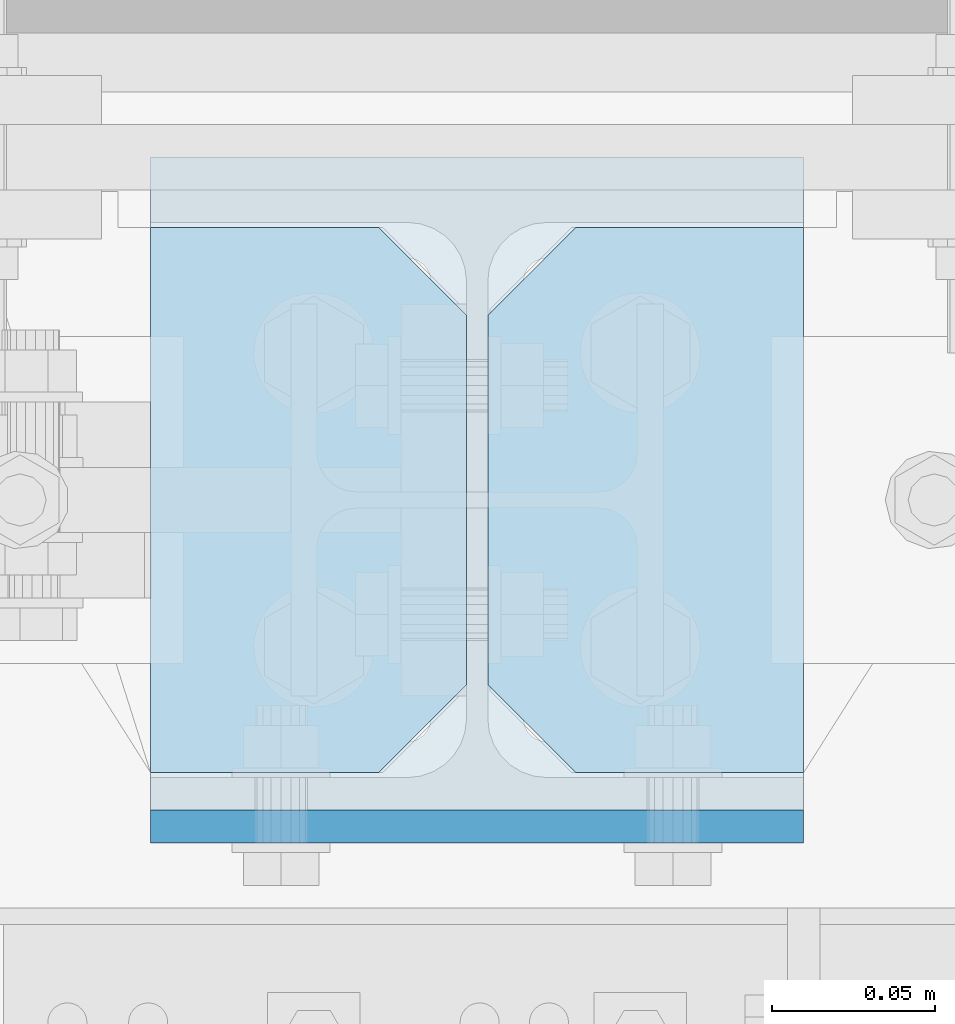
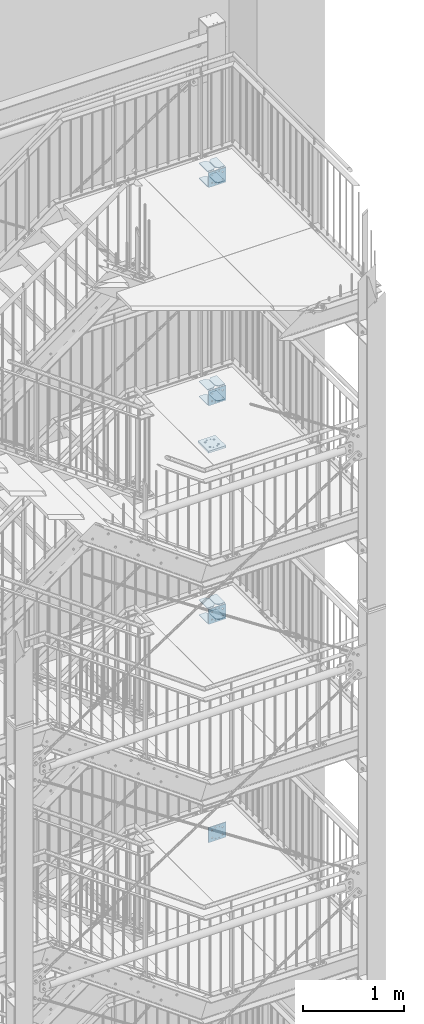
# One storey, part 218 of 831: 17 plates, 64 openings.
"""IFC2X3 building model written with IfcOpenShell, lengths in millimetres."""

from ifc_helpers import new_model, entity, si_unit, converted_unit, frame, frame_2d, origin, origin_with_axes, origin_2d_with_axis, place, context, project, spatial, polyline, circle, outline, extrude, material, layer, layer_set, element, save


model = new_model("IFC2X3")

# Units and contexts
model_context = context("Model", 3, precision=1e-09, world=origin_with_axes())
ifc_project = project(units=[si_unit("LENGTHUNIT", "METRE", prefix="MILLI"), si_unit("AREAUNIT", "SQUARE_METRE"), si_unit("VOLUMEUNIT", "CUBIC_METRE"), converted_unit("PLANEANGLEUNIT", "DEGREE", entity("IfcPlaneAngleMeasure", 0.01745329), si_unit("PLANEANGLEUNIT", "RADIAN"), dimensions=[0, 0, 0, 0, 0, 0, 0])], contexts=[model_context])

# Site, building, storey
site_placement = place(None, origin_with_axes())
site = spatial("IfcSite", under=ifc_project, at=site_placement, Name="Site", CompositionType="ELEMENT")
building_placement = place(site_placement, origin_with_axes())
building = spatial("IfcBuilding", under=site, at=building_placement, Name="Struktur 1", CompositionType="ELEMENT")
storey_placement = place(building_placement, origin_with_axes())
storey = spatial("IfcBuildingStorey", under=building, at=storey_placement, Name="Default Storey", CompositionType="ELEMENT", Elevation=0.0)

# Plate, openings
ifc_material = material(Name="S235JR")
ifc_layer_1 = layer(ifc_material, 25.0)
ifc_layer_set_1 = layer_set([ifc_layer_1], Name="S235JR")
plate_1_placement = place(None, frame((8866.713402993, 7516.736971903, 12925.0), z_axis=(0.0, 0.0, -1.0), x_axis=(0.0, -1.0, 0.0)))
plate_1 = element("IfcPlate", 1, at=plate_1_placement, inside=storey, material=ifc_layer_set_1, Name="Endplate#2", ObjectType="Endplate#2", context=model_context, shape_type="SweptSolid", body=[
    extrude(outline(polyline([(-105.0, -100.0), (105.0, -100.0), (105.0, 100.0), (-105.0, 100.0), (-105.0, -100.0)])), origin_with_axes(), (0.0, 0.0, 1.0), 25.0),
])
opening_1_placement = place(plate_1_placement, frame((67.0, 21.25, 25.5), z_axis=(0.0, 0.0, -1.0), x_axis=(-1.0, 0.0, 0.0)))
element("IfcOpeningElement", 2, at=opening_1_placement, cuts=plate_1, ObjectType="Opening", context=model_context, shape_type="SweptSolid", body=[
    extrude(circle(Radius=7.001, at=origin_2d_with_axis()), origin(), (0.0, 0.0, 1.0), 26.0),
])
opening_2_placement = place(plate_1_placement, frame((-67.0, 21.25, 25.5), z_axis=(0.0, 0.0, -1.0), x_axis=(-1.0, 0.0, 0.0)))
element("IfcOpeningElement", 3, at=opening_2_placement, cuts=plate_1, ObjectType="Opening", context=model_context, shape_type="SweptSolid", body=[
    extrude(circle(Radius=7.001, at=origin_2d_with_axis()), origin(), (0.0, 0.0, 1.0), 26.0),
])
opening_3_placement = place(plate_1_placement, frame((-67.0, -21.25, 25.5), z_axis=(0.0, 0.0, -1.0), x_axis=(-1.0, 0.0, 0.0)))
element("IfcOpeningElement", 4, at=opening_3_placement, cuts=plate_1, ObjectType="Opening", context=model_context, shape_type="SweptSolid", body=[
    extrude(circle(Radius=7.001, at=origin_2d_with_axis()), origin(), (0.0, 0.0, 1.0), 26.0),
])
opening_4_placement = place(plate_1_placement, frame((67.0, -21.25, 25.5), z_axis=(0.0, 0.0, -1.0), x_axis=(-1.0, 0.0, 0.0)))
element("IfcOpeningElement", 5, at=opening_4_placement, cuts=plate_1, ObjectType="Opening", context=model_context, shape_type="SweptSolid", body=[
    extrude(circle(Radius=7.001, at=origin_2d_with_axis()), origin(), (0.0, 0.0, 1.0), 26.0),
])
opening_5_placement = place(plate_1_placement, frame((45.0, 61.001, 25.5), z_axis=(0.0, 0.0, 1.0), x_axis=(1.0, 0.0, 0.0)))
element("IfcOpeningElement", 6, at=opening_5_placement, cuts=plate_1, ObjectType="Opening", context=model_context, shape_type="SweptSolid", body=[
    extrude(circle(Radius=11.001, at=frame_2d((0.0, -11.001), x_axis=(1.0, 0.0))), origin(), (0.0, 0.0, -1.0), 26.0),
])
opening_6_placement = place(plate_1_placement, frame((-45.0, 61.001, 25.5), z_axis=(0.0, 0.0, 1.0), x_axis=(1.0, 0.0, 0.0)))
element("IfcOpeningElement", 7, at=opening_6_placement, cuts=plate_1, ObjectType="Opening", context=model_context, shape_type="SweptSolid", body=[
    extrude(circle(Radius=11.001, at=frame_2d((0.0, -11.001), x_axis=(1.0, 0.0))), origin(), (0.0, 0.0, -1.0), 26.0),
])
opening_7_placement = place(plate_1_placement, frame((45.0, -38.999, 25.5), z_axis=(0.0, 0.0, 1.0), x_axis=(1.0, 0.0, 0.0)))
element("IfcOpeningElement", 8, at=opening_7_placement, cuts=plate_1, ObjectType="Opening", context=model_context, shape_type="SweptSolid", body=[
    extrude(circle(Radius=11.001, at=frame_2d((0.0, -11.001), x_axis=(1.0, 0.0))), origin(), (0.0, 0.0, -1.0), 26.0),
])
opening_8_placement = place(plate_1_placement, frame((-45.0, -38.999, 25.5), z_axis=(0.0, 0.0, 1.0), x_axis=(1.0, 0.0, 0.0)))
element("IfcOpeningElement", 9, at=opening_8_placement, cuts=plate_1, ObjectType="Opening", context=model_context, shape_type="SweptSolid", body=[
    extrude(circle(Radius=11.001, at=frame_2d((0.0, -11.001), x_axis=(1.0, 0.0))), origin(), (0.0, 0.0, -1.0), 26.0),
])

ifc_layer_2 = layer(ifc_material, 10.0)
ifc_layer_set_2 = layer_set([ifc_layer_2], Name="S235JR")
plate_2_placement = place(None, frame((8866.713402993, 7411.736971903, 16189.0000003), z_axis=(0.0, 1.0, 0.0), x_axis=(0.0, 0.0, -1.0)))
plate_2 = element("IfcPlate", 10, at=plate_2_placement, inside=storey, material=ifc_layer_set_2, Name="Endplate", ObjectType="Endplate", context=model_context, shape_type="SweptSolid", body=[
    extrude(outline(polyline([(-90.0, -100.0), (90.0, -100.0), (90.0, 100.0), (-90.0, 100.0), (-90.0, -100.0)])), origin_with_axes(), (0.0, 0.0, 1.0), 10.0),
])
opening_9_placement = place(plate_2_placement, frame((-67.0, 21.25, 10.5), z_axis=(0.0, 0.0, -1.0), x_axis=(-1.0, 0.0, 0.0)))
element("IfcOpeningElement", 11, at=opening_9_placement, cuts=plate_2, ObjectType="Opening", context=model_context, shape_type="SweptSolid", body=[
    extrude(circle(Radius=6.001, at=origin_2d_with_axis()), origin(), (0.0, 0.0, 1.0), 11.0),
])
opening_10_placement = place(plate_2_placement, frame((67.0, 21.25, 10.5), z_axis=(0.0, 0.0, -1.0), x_axis=(-1.0, 0.0, 0.0)))
element("IfcOpeningElement", 12, at=opening_10_placement, cuts=plate_2, ObjectType="Opening", context=model_context, shape_type="SweptSolid", body=[
    extrude(circle(Radius=6.001, at=origin_2d_with_axis()), origin(), (0.0, 0.0, 1.0), 11.0),
])
opening_11_placement = place(plate_2_placement, frame((67.0, -21.25, 10.5), z_axis=(0.0, 0.0, -1.0), x_axis=(-1.0, 0.0, 0.0)))
element("IfcOpeningElement", 13, at=opening_11_placement, cuts=plate_2, ObjectType="Opening", context=model_context, shape_type="SweptSolid", body=[
    extrude(circle(Radius=6.001, at=origin_2d_with_axis()), origin(), (0.0, 0.0, 1.0), 11.0),
])
opening_12_placement = place(plate_2_placement, frame((-67.0, -21.25, 10.5), z_axis=(0.0, 0.0, -1.0), x_axis=(-1.0, 0.0, 0.0)))
element("IfcOpeningElement", 14, at=opening_12_placement, cuts=plate_2, ObjectType="Opening", context=model_context, shape_type="SweptSolid", body=[
    extrude(circle(Radius=6.001, at=origin_2d_with_axis()), origin(), (0.0, 0.0, 1.0), 11.0),
])
opening_13_placement = place(plate_2_placement, frame((45.0, 60.0, 10.5), z_axis=(0.0, 0.0, -1.0), x_axis=(0.0, 1.0, 0.0)))
element("IfcOpeningElement", 15, at=opening_13_placement, cuts=plate_2, ObjectType="Opening", context=model_context, shape_type="SweptSolid", body=[
    extrude(circle(Radius=9.001, at=origin_2d_with_axis()), origin(), (0.0, 0.0, 1.0), 11.0),
])
opening_14_placement = place(plate_2_placement, frame((-45.0, -60.0, 10.5), z_axis=(0.0, 0.0, -1.0), x_axis=(0.0, -1.0, 0.0)))
element("IfcOpeningElement", 16, at=opening_14_placement, cuts=plate_2, ObjectType="Opening", context=model_context, shape_type="SweptSolid", body=[
    extrude(circle(Radius=9.001, at=origin_2d_with_axis()), origin(), (0.0, 0.0, 1.0), 11.0),
])
opening_15_placement = place(plate_2_placement, frame((-45.0, 60.0, 10.5), z_axis=(0.0, 0.0, -1.0), x_axis=(0.0, 1.0, 0.0)))
element("IfcOpeningElement", 17, at=opening_15_placement, cuts=plate_2, ObjectType="Opening", context=model_context, shape_type="SweptSolid", body=[
    extrude(circle(Radius=9.001, at=origin_2d_with_axis()), origin(), (0.0, 0.0, 1.0), 11.0),
])
opening_16_placement = place(plate_2_placement, frame((45.0, -60.0, 10.5), z_axis=(0.0, 0.0, -1.0), x_axis=(0.0, -1.0, 0.0)))
element("IfcOpeningElement", 18, at=opening_16_placement, cuts=plate_2, ObjectType="Opening", context=model_context, shape_type="SweptSolid", body=[
    extrude(circle(Radius=9.001, at=origin_2d_with_axis()), origin(), (0.0, 0.0, 1.0), 11.0),
])

plate_3_placement = place(None, frame((8766.713402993, 7433.236971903, 16274.0000003), z_axis=(0.0, 0.0, 1.0), x_axis=(1.0, 0.0, 0.0)))
plate_3 = element("IfcPlate", 19, at=plate_3_placement, inside=storey, material=ifc_layer_set_2, Name="Stiffener#1", ObjectType="Stiffener#1", context=model_context, shape_type="SweptSolid", body=[
    extrude(outline(polyline([(0.0, 0.0), (96.75, 0.0), (96.75, 167.0), (0.0, 167.0), (0.0, 0.0)])), origin_with_axes(), (0.0, 0.0, 1.0), 10.0),
])
opening_17_placement = place(plate_3_placement, frame((0.0, 0.0, -0.01), z_axis=(0.0, 0.0, 1.0), x_axis=(1.0, 0.0, 0.0)))
element("IfcOpeningElement", 20, at=opening_17_placement, cuts=plate_3, ObjectType="Opening", context=model_context, shape_type="SweptSolid", body=[
    extrude(outline(polyline([(96.75, 167.0), (69.75, 167.0), (96.75, 140.0), (96.75, 167.0)])), origin(), (0.0, 0.0, 1.0), 10.02),
])
opening_18_placement = place(plate_3_placement, frame((0.0, 0.0, -0.01), z_axis=(0.0, 0.0, 1.0), x_axis=(1.0, 0.0, 0.0)))
element("IfcOpeningElement", 21, at=opening_18_placement, cuts=plate_3, ObjectType="Opening", context=model_context, shape_type="SweptSolid", body=[
    extrude(outline(polyline([(96.75, 0.0), (96.75, 27.0), (69.75, 0.0), (96.75, 0.0)])), origin(), (0.0, 0.0, 1.0), 10.02),
])

plate_4_placement = place(None, frame((8869.963402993, 7433.236971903, 16274.0000003), z_axis=(0.0, 0.0, 1.0), x_axis=(1.0, 0.0, 0.0)))
plate_4 = element("IfcPlate", 22, at=plate_4_placement, inside=storey, material=ifc_layer_set_2, Name="Stiffener#2", ObjectType="Stiffener#2", context=model_context, shape_type="SweptSolid", body=[
    extrude(outline(polyline([(0.0, 0.0), (96.75, 0.0), (96.75, 167.0), (0.0, 167.0), (0.0, 0.0)])), origin_with_axes(), (0.0, 0.0, 1.0), 10.0),
])
opening_19_placement = place(plate_4_placement, frame((0.0, 0.0, -0.01), z_axis=(0.0, 0.0, 1.0), x_axis=(1.0, 0.0, 0.0)))
element("IfcOpeningElement", 23, at=opening_19_placement, cuts=plate_4, ObjectType="Opening", context=model_context, shape_type="SweptSolid", body=[
    extrude(outline(polyline([(0.0, 167.0), (0.0, 140.0), (27.0, 167.0), (0.0, 167.0)])), origin(), (0.0, 0.0, 1.0), 10.02),
])
opening_20_placement = place(plate_4_placement, frame((0.0, 0.0, -0.01), z_axis=(0.0, 0.0, 1.0), x_axis=(1.0, 0.0, 0.0)))
element("IfcOpeningElement", 24, at=opening_20_placement, cuts=plate_4, ObjectType="Opening", context=model_context, shape_type="SweptSolid", body=[
    extrude(outline(polyline([(0.0, 0.0), (27.0, 0.0), (0.0, 27.0), (0.0, 0.0)])), origin(), (0.0, 0.0, 1.0), 10.02),
])

plate_5_placement = place(None, frame((8863.463402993, 7433.236971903, 16104.0000003), z_axis=(0.0, 0.0, -1.0), x_axis=(-1.0, 0.0, 0.0)))
plate_5 = element("IfcPlate", 25, at=plate_5_placement, inside=storey, material=ifc_layer_set_2, Name="Stiffener#3", ObjectType="Stiffener#3", context=model_context, shape_type="SweptSolid", body=[
    extrude(outline(polyline([(0.0, 0.0), (96.75, 0.0), (96.75, 167.0), (0.0, 167.0), (0.0, 0.0)])), origin_with_axes(), (0.0, 0.0, 1.0), 10.0),
])
opening_21_placement = place(plate_5_placement, frame((0.0, 0.0, -0.01), z_axis=(0.0, 0.0, 1.0), x_axis=(1.0, 0.0, 0.0)))
element("IfcOpeningElement", 26, at=opening_21_placement, cuts=plate_5, ObjectType="Opening", context=model_context, shape_type="SweptSolid", body=[
    extrude(outline(polyline([(0.0, 167.0), (0.0, 140.0), (27.0, 167.0), (0.0, 167.0)])), origin(), (0.0, 0.0, 1.0), 10.02),
])
opening_22_placement = place(plate_5_placement, frame((0.0, 0.0, -0.01), z_axis=(0.0, 0.0, 1.0), x_axis=(1.0, 0.0, 0.0)))
element("IfcOpeningElement", 27, at=opening_22_placement, cuts=plate_5, ObjectType="Opening", context=model_context, shape_type="SweptSolid", body=[
    extrude(outline(polyline([(0.0, 0.0), (27.0, 0.0), (0.0, 27.0), (0.0, 0.0)])), origin(), (0.0, 0.0, 1.0), 10.02),
])

plate_6_placement = place(None, frame((8966.713402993, 7433.236971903, 16104.0000003), z_axis=(0.0, 0.0, -1.0), x_axis=(-1.0, 0.0, 0.0)))
plate_6 = element("IfcPlate", 28, at=plate_6_placement, inside=storey, material=ifc_layer_set_2, Name="Stiffener#4", ObjectType="Stiffener#4", context=model_context, shape_type="SweptSolid", body=[
    extrude(outline(polyline([(0.0, 0.0), (96.75, 0.0), (96.75, 167.0), (0.0, 167.0), (0.0, 0.0)])), origin_with_axes(), (0.0, 0.0, 1.0), 10.0),
])
opening_23_placement = place(plate_6_placement, frame((0.0, 0.0, -0.01), z_axis=(0.0, 0.0, 1.0), x_axis=(1.0, 0.0, 0.0)))
element("IfcOpeningElement", 29, at=opening_23_placement, cuts=plate_6, ObjectType="Opening", context=model_context, shape_type="SweptSolid", body=[
    extrude(outline(polyline([(96.75, 167.0), (69.75, 167.0), (96.75, 140.0), (96.75, 167.0)])), origin(), (0.0, 0.0, 1.0), 10.02),
])
opening_24_placement = place(plate_6_placement, frame((0.0, 0.0, -0.01), z_axis=(0.0, 0.0, 1.0), x_axis=(1.0, 0.0, 0.0)))
element("IfcOpeningElement", 30, at=opening_24_placement, cuts=plate_6, ObjectType="Opening", context=model_context, shape_type="SweptSolid", body=[
    extrude(outline(polyline([(96.75, 0.0), (96.75, 27.0), (69.75, 0.0), (96.75, 0.0)])), origin(), (0.0, 0.0, 1.0), 10.02),
])

plate_7_placement = place(None, frame((8866.713402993, 7411.736971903, 13561.5000001), z_axis=(0.0, 1.0, 0.0), x_axis=(0.0, 0.0, -1.0)))
plate_7 = element("IfcPlate", 31, at=plate_7_placement, inside=storey, material=ifc_layer_set_2, Name="Endplate", ObjectType="Endplate", context=model_context, shape_type="SweptSolid", body=[
    extrude(outline(polyline([(-90.0, -100.0), (90.0, -100.0), (90.0, 100.0), (-90.0, 100.0), (-90.0, -100.0)])), origin_with_axes(), (0.0, 0.0, 1.0), 10.0),
])
opening_25_placement = place(plate_7_placement, frame((-67.0, 21.25, 10.5), z_axis=(0.0, 0.0, -1.0), x_axis=(-1.0, 0.0, 0.0)))
element("IfcOpeningElement", 32, at=opening_25_placement, cuts=plate_7, ObjectType="Opening", context=model_context, shape_type="SweptSolid", body=[
    extrude(circle(Radius=6.001, at=origin_2d_with_axis()), origin(), (0.0, 0.0, 1.0), 11.0),
])
opening_26_placement = place(plate_7_placement, frame((67.0, 21.25, 10.5), z_axis=(0.0, 0.0, -1.0), x_axis=(-1.0, 0.0, 0.0)))
element("IfcOpeningElement", 33, at=opening_26_placement, cuts=plate_7, ObjectType="Opening", context=model_context, shape_type="SweptSolid", body=[
    extrude(circle(Radius=6.001, at=origin_2d_with_axis()), origin(), (0.0, 0.0, 1.0), 11.0),
])
opening_27_placement = place(plate_7_placement, frame((67.0, -21.25, 10.5), z_axis=(0.0, 0.0, -1.0), x_axis=(-1.0, 0.0, 0.0)))
element("IfcOpeningElement", 34, at=opening_27_placement, cuts=plate_7, ObjectType="Opening", context=model_context, shape_type="SweptSolid", body=[
    extrude(circle(Radius=6.001, at=origin_2d_with_axis()), origin(), (0.0, 0.0, 1.0), 11.0),
])
opening_28_placement = place(plate_7_placement, frame((-67.0, -21.25, 10.5), z_axis=(0.0, 0.0, -1.0), x_axis=(-1.0, 0.0, 0.0)))
element("IfcOpeningElement", 35, at=opening_28_placement, cuts=plate_7, ObjectType="Opening", context=model_context, shape_type="SweptSolid", body=[
    extrude(circle(Radius=6.001, at=origin_2d_with_axis()), origin(), (0.0, 0.0, 1.0), 11.0),
])
opening_29_placement = place(plate_7_placement, frame((45.0, -60.0, 10.5), z_axis=(0.0, 0.0, -1.0), x_axis=(0.0, -1.0, 0.0)))
element("IfcOpeningElement", 36, at=opening_29_placement, cuts=plate_7, ObjectType="Opening", context=model_context, shape_type="SweptSolid", body=[
    extrude(circle(Radius=9.001, at=origin_2d_with_axis()), origin(), (0.0, 0.0, 1.0), 11.0),
])
opening_30_placement = place(plate_7_placement, frame((-45.0, -60.0, 10.5), z_axis=(0.0, 0.0, -1.0), x_axis=(0.0, -1.0, 0.0)))
element("IfcOpeningElement", 37, at=opening_30_placement, cuts=plate_7, ObjectType="Opening", context=model_context, shape_type="SweptSolid", body=[
    extrude(circle(Radius=9.001, at=origin_2d_with_axis()), origin(), (0.0, 0.0, 1.0), 11.0),
])
opening_31_placement = place(plate_7_placement, frame((45.0, 60.0, 10.5), z_axis=(0.0, 0.0, -1.0), x_axis=(0.0, 1.0, 0.0)))
element("IfcOpeningElement", 38, at=opening_31_placement, cuts=plate_7, ObjectType="Opening", context=model_context, shape_type="SweptSolid", body=[
    extrude(circle(Radius=9.001, at=origin_2d_with_axis()), origin(), (0.0, 0.0, 1.0), 11.0),
])
opening_32_placement = place(plate_7_placement, frame((-45.0, 60.0, 10.5), z_axis=(0.0, 0.0, -1.0), x_axis=(0.0, 1.0, 0.0)))
element("IfcOpeningElement", 39, at=opening_32_placement, cuts=plate_7, ObjectType="Opening", context=model_context, shape_type="SweptSolid", body=[
    extrude(circle(Radius=9.001, at=origin_2d_with_axis()), origin(), (0.0, 0.0, 1.0), 11.0),
])

plate_8_placement = place(None, frame((8766.713402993, 7433.236971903, 13646.5000001), z_axis=(0.0, 0.0, 1.0), x_axis=(1.0, 0.0, 0.0)))
plate_8 = element("IfcPlate", 40, at=plate_8_placement, inside=storey, material=ifc_layer_set_2, Name="Stiffener#1", ObjectType="Stiffener#1", context=model_context, shape_type="SweptSolid", body=[
    extrude(outline(polyline([(0.0, 0.0), (96.75, 0.0), (96.75, 167.0), (0.0, 167.0), (0.0, 0.0)])), origin_with_axes(), (0.0, 0.0, 1.0), 10.0),
])
opening_33_placement = place(plate_8_placement, frame((0.0, 0.0, -0.01), z_axis=(0.0, 0.0, 1.0), x_axis=(1.0, 0.0, 0.0)))
element("IfcOpeningElement", 41, at=opening_33_placement, cuts=plate_8, ObjectType="Opening", context=model_context, shape_type="SweptSolid", body=[
    extrude(outline(polyline([(96.75, 167.0), (69.75, 167.0), (96.75, 140.0), (96.75, 167.0)])), origin(), (0.0, 0.0, 1.0), 10.02),
])
opening_34_placement = place(plate_8_placement, frame((0.0, 0.0, -0.01), z_axis=(0.0, 0.0, 1.0), x_axis=(1.0, 0.0, 0.0)))
element("IfcOpeningElement", 42, at=opening_34_placement, cuts=plate_8, ObjectType="Opening", context=model_context, shape_type="SweptSolid", body=[
    extrude(outline(polyline([(96.75, 0.0), (96.75, 27.0), (69.75, 0.0), (96.75, 0.0)])), origin(), (0.0, 0.0, 1.0), 10.02),
])

plate_9_placement = place(None, frame((8869.963402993, 7433.236971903, 13646.5000001), z_axis=(0.0, 0.0, 1.0), x_axis=(1.0, 0.0, 0.0)))
plate_9 = element("IfcPlate", 43, at=plate_9_placement, inside=storey, material=ifc_layer_set_2, Name="Stiffener#2", ObjectType="Stiffener#2", context=model_context, shape_type="SweptSolid", body=[
    extrude(outline(polyline([(0.0, 0.0), (96.75, 0.0), (96.75, 167.0), (0.0, 167.0), (0.0, 0.0)])), origin_with_axes(), (0.0, 0.0, 1.0), 10.0),
])
opening_35_placement = place(plate_9_placement, frame((0.0, 0.0, -0.01), z_axis=(0.0, 0.0, 1.0), x_axis=(1.0, 0.0, 0.0)))
element("IfcOpeningElement", 44, at=opening_35_placement, cuts=plate_9, ObjectType="Opening", context=model_context, shape_type="SweptSolid", body=[
    extrude(outline(polyline([(0.0, 167.0), (0.0, 140.0), (27.0, 167.0), (0.0, 167.0)])), origin(), (0.0, 0.0, 1.0), 10.02),
])
opening_36_placement = place(plate_9_placement, frame((0.0, 0.0, -0.01), z_axis=(0.0, 0.0, 1.0), x_axis=(1.0, 0.0, 0.0)))
element("IfcOpeningElement", 45, at=opening_36_placement, cuts=plate_9, ObjectType="Opening", context=model_context, shape_type="SweptSolid", body=[
    extrude(outline(polyline([(0.0, 0.0), (27.0, 0.0), (0.0, 27.0), (0.0, 0.0)])), origin(), (0.0, 0.0, 1.0), 10.02),
])

plate_10_placement = place(None, frame((8863.463402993, 7433.236971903, 13476.5000001), z_axis=(0.0, 0.0, -1.0), x_axis=(-1.0, 0.0, 0.0)))
plate_10 = element("IfcPlate", 46, at=plate_10_placement, inside=storey, material=ifc_layer_set_2, Name="Stiffener#3", ObjectType="Stiffener#3", context=model_context, shape_type="SweptSolid", body=[
    extrude(outline(polyline([(0.0, 0.0), (96.75, 0.0), (96.75, 167.0), (0.0, 167.0), (0.0, 0.0)])), origin_with_axes(), (0.0, 0.0, 1.0), 10.0),
])
opening_37_placement = place(plate_10_placement, frame((0.0, 0.0, -0.01), z_axis=(0.0, 0.0, 1.0), x_axis=(1.0, 0.0, 0.0)))
element("IfcOpeningElement", 47, at=opening_37_placement, cuts=plate_10, ObjectType="Opening", context=model_context, shape_type="SweptSolid", body=[
    extrude(outline(polyline([(0.0, 167.0), (0.0, 140.0), (27.0, 167.0), (0.0, 167.0)])), origin(), (0.0, 0.0, 1.0), 10.02),
])
opening_38_placement = place(plate_10_placement, frame((0.0, 0.0, -0.01), z_axis=(0.0, 0.0, 1.0), x_axis=(1.0, 0.0, 0.0)))
element("IfcOpeningElement", 48, at=opening_38_placement, cuts=plate_10, ObjectType="Opening", context=model_context, shape_type="SweptSolid", body=[
    extrude(outline(polyline([(0.0, 0.0), (27.0, 0.0), (0.0, 27.0), (0.0, 0.0)])), origin(), (0.0, 0.0, 1.0), 10.02),
])

plate_11_placement = place(None, frame((8966.713402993, 7433.236971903, 13476.5000001), z_axis=(0.0, 0.0, -1.0), x_axis=(-1.0, 0.0, 0.0)))
plate_11 = element("IfcPlate", 49, at=plate_11_placement, inside=storey, material=ifc_layer_set_2, Name="Stiffener#4", ObjectType="Stiffener#4", context=model_context, shape_type="SweptSolid", body=[
    extrude(outline(polyline([(0.0, 0.0), (96.75, 0.0), (96.75, 167.0), (0.0, 167.0), (0.0, 0.0)])), origin_with_axes(), (0.0, 0.0, 1.0), 10.0),
])
opening_39_placement = place(plate_11_placement, frame((0.0, 0.0, -0.01), z_axis=(0.0, 0.0, 1.0), x_axis=(1.0, 0.0, 0.0)))
element("IfcOpeningElement", 50, at=opening_39_placement, cuts=plate_11, ObjectType="Opening", context=model_context, shape_type="SweptSolid", body=[
    extrude(outline(polyline([(96.75, 167.0), (69.75, 167.0), (96.75, 140.0), (96.75, 167.0)])), origin(), (0.0, 0.0, 1.0), 10.02),
])
opening_40_placement = place(plate_11_placement, frame((0.0, 0.0, -0.01), z_axis=(0.0, 0.0, 1.0), x_axis=(1.0, 0.0, 0.0)))
element("IfcOpeningElement", 51, at=opening_40_placement, cuts=plate_11, ObjectType="Opening", context=model_context, shape_type="SweptSolid", body=[
    extrude(outline(polyline([(96.75, 0.0), (96.75, 27.0), (69.75, 0.0), (96.75, 0.0)])), origin(), (0.0, 0.0, 1.0), 10.02),
])

plate_12_placement = place(None, frame((8866.713402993, 7411.736971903, 10930.5000003), z_axis=(0.0, 1.0, 0.0), x_axis=(0.0, 0.0, -1.0)))
plate_12 = element("IfcPlate", 52, at=plate_12_placement, inside=storey, material=ifc_layer_set_2, Name="Endplate", ObjectType="Endplate", context=model_context, shape_type="SweptSolid", body=[
    extrude(outline(polyline([(-90.0, -100.0), (90.0, -100.0), (90.0, 100.0), (-90.0, 100.0), (-90.0, -100.0)])), origin_with_axes(), (0.0, 0.0, 1.0), 10.0),
])
opening_41_placement = place(plate_12_placement, frame((-67.0, 21.25, 10.5), z_axis=(0.0, 0.0, -1.0), x_axis=(-1.0, 0.0, 0.0)))
element("IfcOpeningElement", 53, at=opening_41_placement, cuts=plate_12, ObjectType="Opening", context=model_context, shape_type="SweptSolid", body=[
    extrude(circle(Radius=6.001, at=origin_2d_with_axis()), origin(), (0.0, 0.0, 1.0), 11.0),
])
opening_42_placement = place(plate_12_placement, frame((67.0, 21.25, 10.5), z_axis=(0.0, 0.0, -1.0), x_axis=(-1.0, 0.0, 0.0)))
element("IfcOpeningElement", 54, at=opening_42_placement, cuts=plate_12, ObjectType="Opening", context=model_context, shape_type="SweptSolid", body=[
    extrude(circle(Radius=6.001, at=origin_2d_with_axis()), origin(), (0.0, 0.0, 1.0), 11.0),
])
opening_43_placement = place(plate_12_placement, frame((67.0, -21.25, 10.5), z_axis=(0.0, 0.0, -1.0), x_axis=(-1.0, 0.0, 0.0)))
element("IfcOpeningElement", 55, at=opening_43_placement, cuts=plate_12, ObjectType="Opening", context=model_context, shape_type="SweptSolid", body=[
    extrude(circle(Radius=6.001, at=origin_2d_with_axis()), origin(), (0.0, 0.0, 1.0), 11.0),
])
opening_44_placement = place(plate_12_placement, frame((-67.0, -21.25, 10.5), z_axis=(0.0, 0.0, -1.0), x_axis=(-1.0, 0.0, 0.0)))
element("IfcOpeningElement", 56, at=opening_44_placement, cuts=plate_12, ObjectType="Opening", context=model_context, shape_type="SweptSolid", body=[
    extrude(circle(Radius=6.001, at=origin_2d_with_axis()), origin(), (0.0, 0.0, 1.0), 11.0),
])
opening_45_placement = place(plate_12_placement, frame((-45.0, 60.0, 10.5), z_axis=(0.0, 0.0, -1.0), x_axis=(0.0, 1.0, 0.0)))
element("IfcOpeningElement", 57, at=opening_45_placement, cuts=plate_12, ObjectType="Opening", context=model_context, shape_type="SweptSolid", body=[
    extrude(circle(Radius=9.001, at=origin_2d_with_axis()), origin(), (0.0, 0.0, 1.0), 11.0),
])
opening_46_placement = place(plate_12_placement, frame((45.0, -60.0, 10.5), z_axis=(0.0, 0.0, -1.0), x_axis=(0.0, -1.0, 0.0)))
element("IfcOpeningElement", 58, at=opening_46_placement, cuts=plate_12, ObjectType="Opening", context=model_context, shape_type="SweptSolid", body=[
    extrude(circle(Radius=9.001, at=origin_2d_with_axis()), origin(), (0.0, 0.0, 1.0), 11.0),
])
opening_47_placement = place(plate_12_placement, frame((45.0, 60.0, 10.5), z_axis=(0.0, 0.0, -1.0), x_axis=(0.0, 1.0, 0.0)))
element("IfcOpeningElement", 59, at=opening_47_placement, cuts=plate_12, ObjectType="Opening", context=model_context, shape_type="SweptSolid", body=[
    extrude(circle(Radius=9.001, at=origin_2d_with_axis()), origin(), (0.0, 0.0, 1.0), 11.0),
])
opening_48_placement = place(plate_12_placement, frame((-45.0, -60.0, 10.5), z_axis=(0.0, 0.0, -1.0), x_axis=(0.0, -1.0, 0.0)))
element("IfcOpeningElement", 60, at=opening_48_placement, cuts=plate_12, ObjectType="Opening", context=model_context, shape_type="SweptSolid", body=[
    extrude(circle(Radius=9.001, at=origin_2d_with_axis()), origin(), (0.0, 0.0, 1.0), 11.0),
])

plate_13_placement = place(None, frame((8766.713402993, 7433.236971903, 11015.5000003), z_axis=(0.0, 0.0, 1.0), x_axis=(1.0, 0.0, 0.0)))
plate_13 = element("IfcPlate", 61, at=plate_13_placement, inside=storey, material=ifc_layer_set_2, Name="Stiffener#1", ObjectType="Stiffener#1", context=model_context, shape_type="SweptSolid", body=[
    extrude(outline(polyline([(0.0, 0.0), (96.75, 0.0), (96.75, 167.0), (0.0, 167.0), (0.0, 0.0)])), origin_with_axes(), (0.0, 0.0, 1.0), 10.0),
])
opening_49_placement = place(plate_13_placement, frame((0.0, 0.0, -0.01), z_axis=(0.0, 0.0, 1.0), x_axis=(1.0, 0.0, 0.0)))
element("IfcOpeningElement", 62, at=opening_49_placement, cuts=plate_13, ObjectType="Opening", context=model_context, shape_type="SweptSolid", body=[
    extrude(outline(polyline([(96.75, 167.0), (69.75, 167.0), (96.75, 140.0), (96.75, 167.0)])), origin(), (0.0, 0.0, 1.0), 10.02),
])
opening_50_placement = place(plate_13_placement, frame((0.0, 0.0, -0.01), z_axis=(0.0, 0.0, 1.0), x_axis=(1.0, 0.0, 0.0)))
element("IfcOpeningElement", 63, at=opening_50_placement, cuts=plate_13, ObjectType="Opening", context=model_context, shape_type="SweptSolid", body=[
    extrude(outline(polyline([(96.75, 0.0), (96.75, 27.0), (69.75, 0.0), (96.75, 0.0)])), origin(), (0.0, 0.0, 1.0), 10.02),
])

plate_14_placement = place(None, frame((8869.963402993, 7433.236971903, 11015.5000003), z_axis=(0.0, 0.0, 1.0), x_axis=(1.0, 0.0, 0.0)))
plate_14 = element("IfcPlate", 64, at=plate_14_placement, inside=storey, material=ifc_layer_set_2, Name="Stiffener#2", ObjectType="Stiffener#2", context=model_context, shape_type="SweptSolid", body=[
    extrude(outline(polyline([(0.0, 0.0), (96.75, 0.0), (96.75, 167.0), (0.0, 167.0), (0.0, 0.0)])), origin_with_axes(), (0.0, 0.0, 1.0), 10.0),
])
opening_51_placement = place(plate_14_placement, frame((0.0, 0.0, -0.01), z_axis=(0.0, 0.0, 1.0), x_axis=(1.0, 0.0, 0.0)))
element("IfcOpeningElement", 65, at=opening_51_placement, cuts=plate_14, ObjectType="Opening", context=model_context, shape_type="SweptSolid", body=[
    extrude(outline(polyline([(0.0, 167.0), (0.0, 140.0), (27.0, 167.0), (0.0, 167.0)])), origin(), (0.0, 0.0, 1.0), 10.02),
])
opening_52_placement = place(plate_14_placement, frame((0.0, 0.0, -0.01), z_axis=(0.0, 0.0, 1.0), x_axis=(1.0, 0.0, 0.0)))
element("IfcOpeningElement", 66, at=opening_52_placement, cuts=plate_14, ObjectType="Opening", context=model_context, shape_type="SweptSolid", body=[
    extrude(outline(polyline([(0.0, 0.0), (27.0, 0.0), (0.0, 27.0), (0.0, 0.0)])), origin(), (0.0, 0.0, 1.0), 10.02),
])

plate_15_placement = place(None, frame((8863.463402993, 7433.236971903, 10845.5000003), z_axis=(0.0, 0.0, -1.0), x_axis=(-1.0, 0.0, 0.0)))
plate_15 = element("IfcPlate", 67, at=plate_15_placement, inside=storey, material=ifc_layer_set_2, Name="Stiffener#3", ObjectType="Stiffener#3", context=model_context, shape_type="SweptSolid", body=[
    extrude(outline(polyline([(0.0, 0.0), (96.75, 0.0), (96.75, 167.0), (0.0, 167.0), (0.0, 0.0)])), origin_with_axes(), (0.0, 0.0, 1.0), 10.0),
])
opening_53_placement = place(plate_15_placement, frame((0.0, 0.0, -0.01), z_axis=(0.0, 0.0, 1.0), x_axis=(1.0, 0.0, 0.0)))
element("IfcOpeningElement", 68, at=opening_53_placement, cuts=plate_15, ObjectType="Opening", context=model_context, shape_type="SweptSolid", body=[
    extrude(outline(polyline([(0.0, 167.0), (0.0, 140.0), (27.0, 167.0), (0.0, 167.0)])), origin(), (0.0, 0.0, 1.0), 10.02),
])
opening_54_placement = place(plate_15_placement, frame((0.0, 0.0, -0.01), z_axis=(0.0, 0.0, 1.0), x_axis=(1.0, 0.0, 0.0)))
element("IfcOpeningElement", 69, at=opening_54_placement, cuts=plate_15, ObjectType="Opening", context=model_context, shape_type="SweptSolid", body=[
    extrude(outline(polyline([(0.0, 0.0), (27.0, 0.0), (0.0, 27.0), (0.0, 0.0)])), origin(), (0.0, 0.0, 1.0), 10.02),
])

plate_16_placement = place(None, frame((8966.713402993, 7433.236971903, 10845.5000003), z_axis=(0.0, 0.0, -1.0), x_axis=(-1.0, 0.0, 0.0)))
plate_16 = element("IfcPlate", 70, at=plate_16_placement, inside=storey, material=ifc_layer_set_2, Name="Stiffener#4", ObjectType="Stiffener#4", context=model_context, shape_type="SweptSolid", body=[
    extrude(outline(polyline([(0.0, 0.0), (96.75, 0.0), (96.75, 167.0), (0.0, 167.0), (0.0, 0.0)])), origin_with_axes(), (0.0, 0.0, 1.0), 10.0),
])
opening_55_placement = place(plate_16_placement, frame((0.0, 0.0, -0.01), z_axis=(0.0, 0.0, 1.0), x_axis=(1.0, 0.0, 0.0)))
element("IfcOpeningElement", 71, at=opening_55_placement, cuts=plate_16, ObjectType="Opening", context=model_context, shape_type="SweptSolid", body=[
    extrude(outline(polyline([(96.75, 167.0), (69.75, 167.0), (96.75, 140.0), (96.75, 167.0)])), origin(), (0.0, 0.0, 1.0), 10.02),
])
opening_56_placement = place(plate_16_placement, frame((0.0, 0.0, -0.01), z_axis=(0.0, 0.0, 1.0), x_axis=(1.0, 0.0, 0.0)))
element("IfcOpeningElement", 72, at=opening_56_placement, cuts=plate_16, ObjectType="Opening", context=model_context, shape_type="SweptSolid", body=[
    extrude(outline(polyline([(96.75, 0.0), (96.75, 27.0), (69.75, 0.0), (96.75, 0.0)])), origin(), (0.0, 0.0, 1.0), 10.02),
])

plate_17_placement = place(None, frame((8866.713402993, 7411.736971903, 8301.0), z_axis=(0.0, 1.0, 0.0), x_axis=(0.0, 0.0, -1.0)))
plate_17 = element("IfcPlate", 73, at=plate_17_placement, inside=storey, material=ifc_layer_set_2, Name="Endplate", ObjectType="Endplate", context=model_context, shape_type="SweptSolid", body=[
    extrude(outline(polyline([(-90.0, -100.0), (90.0, -100.0), (90.0, 100.0), (-90.0, 100.0), (-90.0, -100.0)])), origin_with_axes(), (0.0, 0.0, 1.0), 10.0),
])
opening_57_placement = place(plate_17_placement, frame((-67.0, 21.25, 10.5), z_axis=(0.0, 0.0, -1.0), x_axis=(-1.0, 0.0, 0.0)))
element("IfcOpeningElement", 74, at=opening_57_placement, cuts=plate_17, ObjectType="Opening", context=model_context, shape_type="SweptSolid", body=[
    extrude(circle(Radius=6.001, at=origin_2d_with_axis()), origin(), (0.0, 0.0, 1.0), 11.0),
])
opening_58_placement = place(plate_17_placement, frame((67.0, 21.25, 10.5), z_axis=(0.0, 0.0, -1.0), x_axis=(-1.0, 0.0, 0.0)))
element("IfcOpeningElement", 75, at=opening_58_placement, cuts=plate_17, ObjectType="Opening", context=model_context, shape_type="SweptSolid", body=[
    extrude(circle(Radius=6.001, at=origin_2d_with_axis()), origin(), (0.0, 0.0, 1.0), 11.0),
])
opening_59_placement = place(plate_17_placement, frame((67.0, -21.25, 10.5), z_axis=(0.0, 0.0, -1.0), x_axis=(-1.0, 0.0, 0.0)))
element("IfcOpeningElement", 76, at=opening_59_placement, cuts=plate_17, ObjectType="Opening", context=model_context, shape_type="SweptSolid", body=[
    extrude(circle(Radius=6.001, at=origin_2d_with_axis()), origin(), (0.0, 0.0, 1.0), 11.0),
])
opening_60_placement = place(plate_17_placement, frame((-67.0, -21.25, 10.5), z_axis=(0.0, 0.0, -1.0), x_axis=(-1.0, 0.0, 0.0)))
element("IfcOpeningElement", 77, at=opening_60_placement, cuts=plate_17, ObjectType="Opening", context=model_context, shape_type="SweptSolid", body=[
    extrude(circle(Radius=6.001, at=origin_2d_with_axis()), origin(), (0.0, 0.0, 1.0), 11.0),
])
opening_61_placement = place(plate_17_placement, frame((-45.0, -60.0, 10.5), z_axis=(0.0, 0.0, -1.0), x_axis=(0.0, -1.0, 0.0)))
element("IfcOpeningElement", 78, at=opening_61_placement, cuts=plate_17, ObjectType="Opening", context=model_context, shape_type="SweptSolid", body=[
    extrude(circle(Radius=9.001, at=origin_2d_with_axis()), origin(), (0.0, 0.0, 1.0), 11.0),
])
opening_62_placement = place(plate_17_placement, frame((45.0, -60.0, 10.5), z_axis=(0.0, 0.0, -1.0), x_axis=(0.0, -1.0, 0.0)))
element("IfcOpeningElement", 79, at=opening_62_placement, cuts=plate_17, ObjectType="Opening", context=model_context, shape_type="SweptSolid", body=[
    extrude(circle(Radius=9.001, at=origin_2d_with_axis()), origin(), (0.0, 0.0, 1.0), 11.0),
])
opening_63_placement = place(plate_17_placement, frame((-45.0, 60.0, 10.5), z_axis=(0.0, 0.0, -1.0), x_axis=(0.0, 1.0, 0.0)))
element("IfcOpeningElement", 80, at=opening_63_placement, cuts=plate_17, ObjectType="Opening", context=model_context, shape_type="SweptSolid", body=[
    extrude(circle(Radius=9.001, at=origin_2d_with_axis()), origin(), (0.0, 0.0, 1.0), 11.0),
])
opening_64_placement = place(plate_17_placement, frame((45.0, 60.0, 10.5), z_axis=(0.0, 0.0, -1.0), x_axis=(0.0, 1.0, 0.0)))
element("IfcOpeningElement", 81, at=opening_64_placement, cuts=plate_17, ObjectType="Opening", context=model_context, shape_type="SweptSolid", body=[
    extrude(circle(Radius=9.001, at=origin_2d_with_axis()), origin(), (0.0, 0.0, 1.0), 11.0),
])

save(model, "model.ifc")
